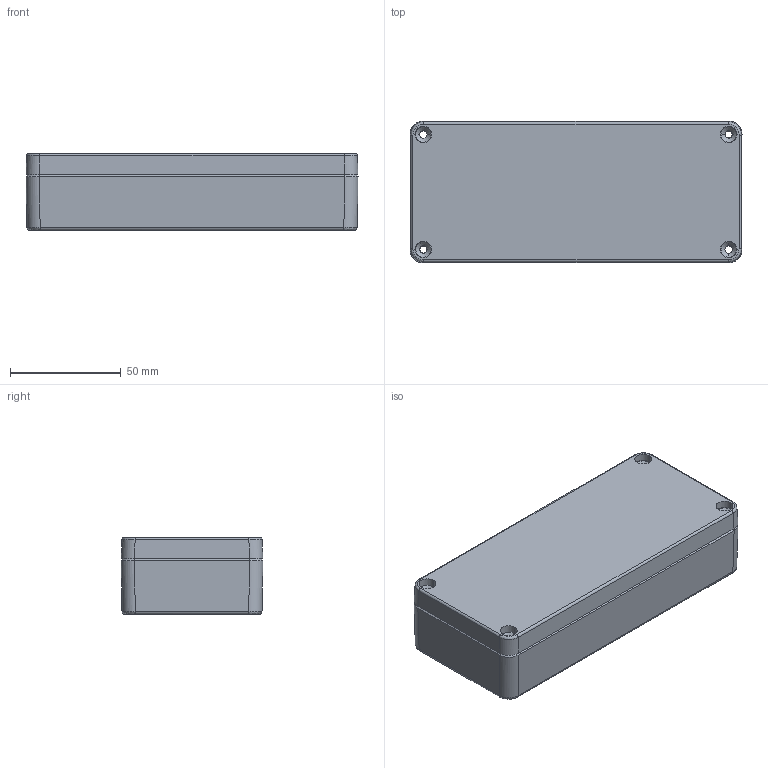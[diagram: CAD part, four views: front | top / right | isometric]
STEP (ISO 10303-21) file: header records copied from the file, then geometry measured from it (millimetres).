
FILE_DESCRIPTION (( 'STEP AP203' ), '1' );
FILE_NAME ('ALU ASSY 1506434.STEP', '2024-08-27T07:12:32', ( '' ), ( '' ), 'SwSTEP 2.0', 'SolidWorks 2018', '' );
FILE_SCHEMA (( 'CONFIG_CONTROL_DESIGN' ));
Length unit declared in the file: millimetre
Products named in the file (3): ALU LID 1506434; ALU BASE 1506434; ALU ASSY 1506434
Assembly tree (2 placements, depth 2):
  ALU ASSY 1506434
    ALU BASE 1506434
    ALU LID 1506434
Bounding box: 150.07 x 64.07 x 34.8 mm (x, y, z)
Volume: 103653.7 mm3; surface area: 68599.1 mm2
Topology: 2 solids, 2 shells, 520 faces, 1245 edges, 758 vertices
Faces by surface type: cylinder 192, plane 167, bspline 86, cone 75
Entity records: 20491 total; most frequent: CARTESIAN_POINT 9031, ORIENTED_EDGE 2458, DIRECTION 2024, EDGE_CURVE 1229, VERTEX_POINT 758, AXIS2_PLACEMENT_3D 707, VECTOR 610, LINE 610
